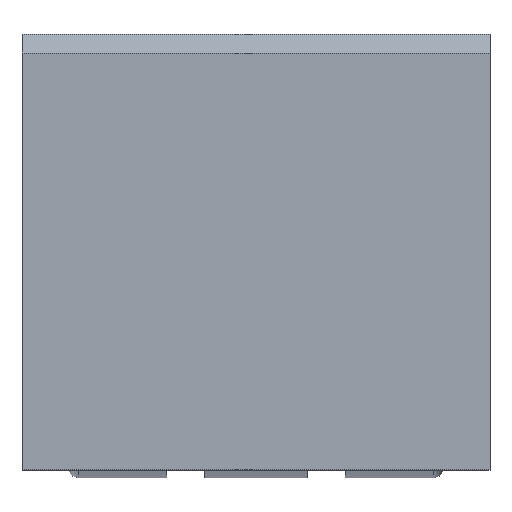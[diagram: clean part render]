
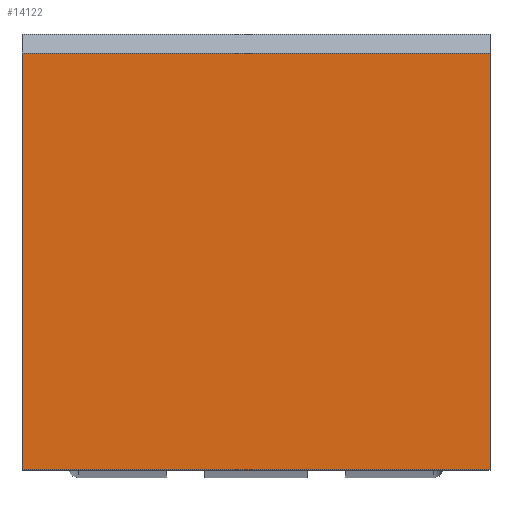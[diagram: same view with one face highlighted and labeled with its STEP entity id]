
A CAD part, top view. The second image highlights one B-rep face of the part: STEP entity #14122.
In plain terms, the highlighted planar face has unit normal (0, 0, 1).
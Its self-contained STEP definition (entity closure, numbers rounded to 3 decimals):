
#54 = ORIENTED_EDGE ( 'NONE', *, *, #13743, .F. ) ;
#75 = LINE ( 'NONE', #257, #8726 ) ;
#257 = CARTESIAN_POINT ( 'NONE',  ( 50., 89., 45. ) ) ;
#1330 = LINE ( 'NONE', #17384, #12116 ) ;
#2563 = EDGE_CURVE ( 'NONE', #2777, #12743, #75, .T. ) ;
#2655 = EDGE_CURVE ( 'NONE', #12743, #14681, #10808, .T. ) ;
#2777 = VERTEX_POINT ( 'NONE', #13043 ) ;
#3654 = EDGE_CURVE ( 'NONE', #2777, #16371, #1330, .T. ) ;
#4137 = CARTESIAN_POINT ( 'NONE',  ( -50., 0., 45. ) ) ;
#4704 = CARTESIAN_POINT ( 'NONE',  ( 50., 0., 45. ) ) ;
#6208 = VECTOR ( 'NONE', #17380, 1000. ) ;
#6500 = DIRECTION ( 'NONE',  ( 0., -1., 0. ) ) ;
#6618 = DIRECTION ( 'NONE',  ( 0., 1., 0. ) ) ;
#6898 = FACE_OUTER_BOUND ( 'NONE', #14271, .T. ) ;
#7964 = DIRECTION ( 'NONE',  ( -1., 0., 0. ) ) ;
#8145 = CARTESIAN_POINT ( 'NONE',  ( -50., 89., 45. ) ) ;
#8557 = ORIENTED_EDGE ( 'NONE', *, *, #3654, .F. ) ;
#8726 = VECTOR ( 'NONE', #12112, 1000. ) ;
#8843 = CARTESIAN_POINT ( 'NONE',  ( -50., 0., 45. ) ) ;
#9517 = CARTESIAN_POINT ( 'NONE',  ( 50., 0., 45. ) ) ;
#10664 = PLANE ( 'NONE',  #16511 ) ;
#10726 = ORIENTED_EDGE ( 'NONE', *, *, #2563, .T. ) ;
#10808 = LINE ( 'NONE', #4137, #6208 ) ;
#12112 = DIRECTION ( 'NONE',  ( -1., 0., 0. ) ) ;
#12116 = VECTOR ( 'NONE', #6500, 1000. ) ;
#12743 = VERTEX_POINT ( 'NONE', #8145 ) ;
#13043 = CARTESIAN_POINT ( 'NONE',  ( 50., 89., 45. ) ) ;
#13743 = EDGE_CURVE ( 'NONE', #16371, #14681, #14878, .T. ) ;
#14122 = ADVANCED_FACE ( 'NONE', ( #6898 ), #10664, .F. ) ;
#14271 = EDGE_LOOP ( 'NONE', ( #8557, #10726, #15998, #54 ) ) ;
#14673 = DIRECTION ( 'NONE',  ( 0., 0., -1. ) ) ;
#14681 = VERTEX_POINT ( 'NONE', #8843 ) ;
#14878 = LINE ( 'NONE', #16104, #15699 ) ;
#15699 = VECTOR ( 'NONE', #7964, 1000. ) ;
#15998 = ORIENTED_EDGE ( 'NONE', *, *, #2655, .T. ) ;
#16104 = CARTESIAN_POINT ( 'NONE',  ( 50., 0., 45. ) ) ;
#16371 = VERTEX_POINT ( 'NONE', #4704 ) ;
#16511 = AXIS2_PLACEMENT_3D ( 'NONE', #9517, #14673, #6618 ) ;
#17380 = DIRECTION ( 'NONE',  ( 0., -1., 0. ) ) ;
#17384 = CARTESIAN_POINT ( 'NONE',  ( 50., 0., 45. ) ) ;
